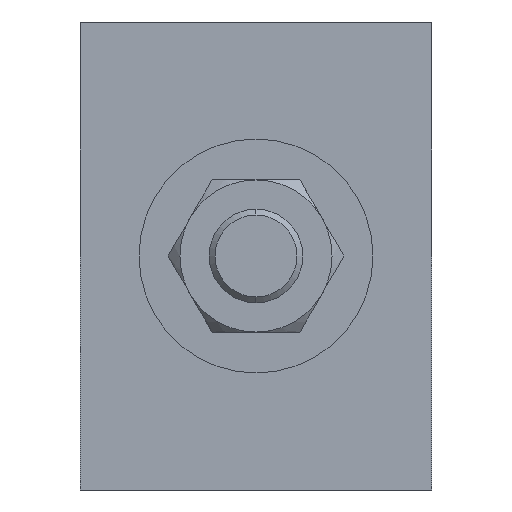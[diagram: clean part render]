
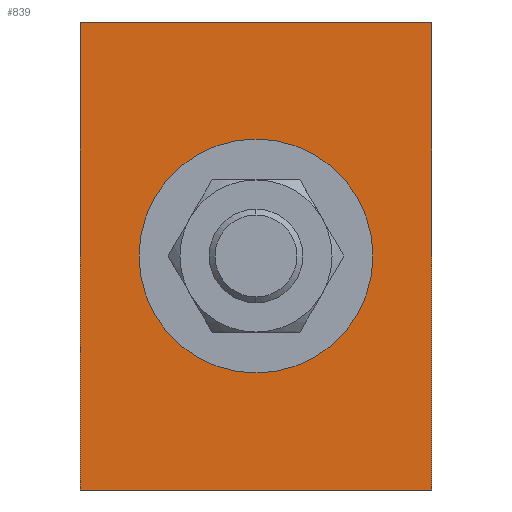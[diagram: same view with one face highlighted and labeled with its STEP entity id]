
A CAD part, left-side view. The second image highlights one B-rep face of the part: STEP entity #839.
In plain terms, the highlighted planar face has unit normal (-1, 0, 0).
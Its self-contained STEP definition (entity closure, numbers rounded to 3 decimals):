
#36 = VECTOR ( 'NONE', #1852, 1000. ) ;
#41 = CARTESIAN_POINT ( 'NONE',  ( -25., 15., 20. ) ) ;
#77 = FACE_BOUND ( 'NONE', #1396, .T. ) ;
#97 = ORIENTED_EDGE ( 'NONE', *, *, #2727, .F. ) ;
#186 = DIRECTION ( 'NONE',  ( -1., 0., 0. ) ) ;
#342 = LINE ( 'NONE', #41, #2221 ) ;
#349 = DIRECTION ( 'NONE',  ( 0., 0., 1. ) ) ;
#412 = VECTOR ( 'NONE', #961, 1000. ) ;
#497 = DIRECTION ( 'NONE',  ( 0., 0., 1. ) ) ;
#601 = AXIS2_PLACEMENT_3D ( 'NONE', #2506, #1158, #497 ) ;
#702 = VERTEX_POINT ( 'NONE', #3060 ) ;
#716 = EDGE_LOOP ( 'NONE', ( #2625, #2801, #1319, #97 ) ) ;
#752 = CIRCLE ( 'NONE', #601, 10. ) ;
#839 = ADVANCED_FACE ( 'NONE', ( #2447, #77 ), #1299, .T. ) ;
#888 = DIRECTION ( 'NONE',  ( 0., 1., 0. ) ) ;
#961 = DIRECTION ( 'NONE',  ( 0., 0., -1. ) ) ;
#970 = DIRECTION ( 'NONE',  ( 0., 0., 1. ) ) ;
#985 = AXIS2_PLACEMENT_3D ( 'NONE', #2173, #1279, #349 ) ;
#1096 = EDGE_CURVE ( 'NONE', #2576, #2065, #1199, .T. ) ;
#1158 = DIRECTION ( 'NONE',  ( 1., 0., 0. ) ) ;
#1199 = CIRCLE ( 'NONE', #985, 10. ) ;
#1217 = DIRECTION ( 'NONE',  ( 0., 0., 1. ) ) ;
#1238 = EDGE_CURVE ( 'NONE', #1881, #2469, #1723, .T. ) ;
#1279 = DIRECTION ( 'NONE',  ( 1., 0., 0. ) ) ;
#1299 = PLANE ( 'NONE',  #2580 ) ;
#1319 = ORIENTED_EDGE ( 'NONE', *, *, #1238, .F. ) ;
#1396 = EDGE_LOOP ( 'NONE', ( #1920, #2921 ) ) ;
#1520 = VECTOR ( 'NONE', #888, 1000. ) ;
#1664 = CARTESIAN_POINT ( 'NONE',  ( -25., -15., 20. ) ) ;
#1707 = CARTESIAN_POINT ( 'NONE',  ( -25., -15., 20. ) ) ;
#1723 = LINE ( 'NONE', #2556, #1520 ) ;
#1768 = CARTESIAN_POINT ( 'NONE',  ( -25., -15., -20. ) ) ;
#1852 = DIRECTION ( 'NONE',  ( 0., -1., 0. ) ) ;
#1881 = VERTEX_POINT ( 'NONE', #1768 ) ;
#1891 = EDGE_CURVE ( 'NONE', #2065, #2576, #752, .T. ) ;
#1920 = ORIENTED_EDGE ( 'NONE', *, *, #1096, .T. ) ;
#1981 = CARTESIAN_POINT ( 'NONE',  ( -25., 0., 10. ) ) ;
#2065 = VERTEX_POINT ( 'NONE', #2268 ) ;
#2088 = CARTESIAN_POINT ( 'NONE',  ( -25., -15., 20. ) ) ;
#2095 = CARTESIAN_POINT ( 'NONE',  ( -25., 0., 0. ) ) ;
#2136 = EDGE_CURVE ( 'NONE', #2469, #702, #342, .T. ) ;
#2173 = CARTESIAN_POINT ( 'NONE',  ( -25., 0., 0. ) ) ;
#2221 = VECTOR ( 'NONE', #1217, 1000. ) ;
#2268 = CARTESIAN_POINT ( 'NONE',  ( -25., 0., -10. ) ) ;
#2293 = LINE ( 'NONE', #1664, #36 ) ;
#2447 = FACE_OUTER_BOUND ( 'NONE', #716, .T. ) ;
#2469 = VERTEX_POINT ( 'NONE', #2472 ) ;
#2472 = CARTESIAN_POINT ( 'NONE',  ( -25., 15., -20. ) ) ;
#2487 = LINE ( 'NONE', #2088, #412 ) ;
#2506 = CARTESIAN_POINT ( 'NONE',  ( -25., 0., 0. ) ) ;
#2556 = CARTESIAN_POINT ( 'NONE',  ( -25., -15., -20. ) ) ;
#2576 = VERTEX_POINT ( 'NONE', #1981 ) ;
#2580 = AXIS2_PLACEMENT_3D ( 'NONE', #2095, #186, #970 ) ;
#2625 = ORIENTED_EDGE ( 'NONE', *, *, #2641, .F. ) ;
#2641 = EDGE_CURVE ( 'NONE', #702, #2753, #2293, .T. ) ;
#2727 = EDGE_CURVE ( 'NONE', #2753, #1881, #2487, .T. ) ;
#2753 = VERTEX_POINT ( 'NONE', #1707 ) ;
#2801 = ORIENTED_EDGE ( 'NONE', *, *, #2136, .F. ) ;
#2921 = ORIENTED_EDGE ( 'NONE', *, *, #1891, .T. ) ;
#3060 = CARTESIAN_POINT ( 'NONE',  ( -25., 15., 20. ) ) ;
